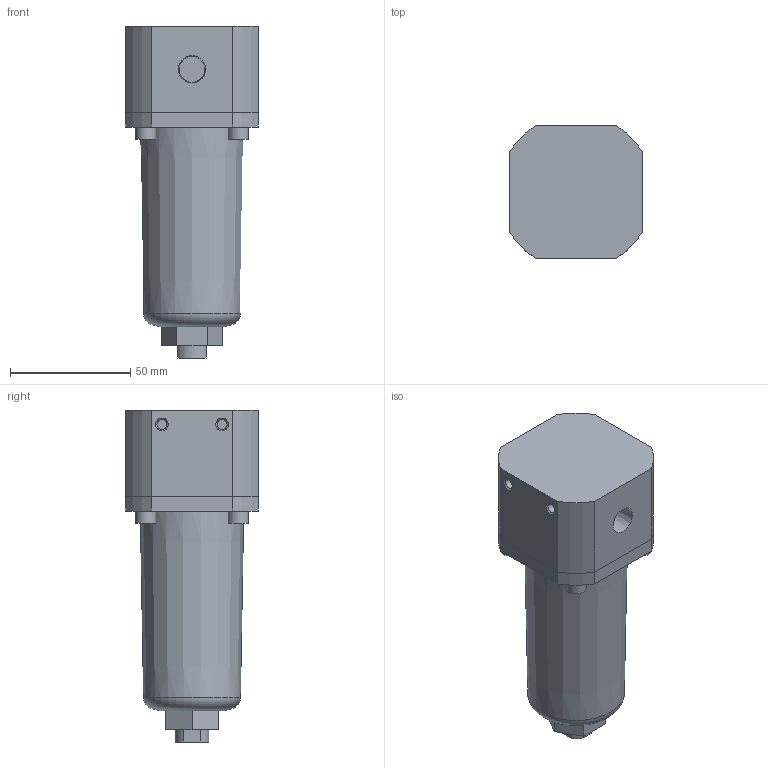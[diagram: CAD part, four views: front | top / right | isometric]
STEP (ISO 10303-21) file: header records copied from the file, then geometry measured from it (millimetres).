
FILE_DESCRIPTION(/* description */ ('FILTRO G1/4" #µm - # S.A.'),/* implementation_level */ '2;1');
FILE_NAME(/* name */ 'I:\Area Tecnica\Disegni\VARIE-3D\Componenti\FRL-INOX\SS172\SS172CF# #S.step',/* time_stamp */ '2016-04-06T09:51:08+02:00',/* author */ ('M.Valota'),/* organization */ ('Pneumax S.p.A.'),/* preprocessor_version */ 'ST-DEVELOPER v15.2',/* originating_system */ 'Autodesk Inventor 2014',/* authorisation */ '');
FILE_SCHEMA (('AUTOMOTIVE_DESIGN { 1 0 10303 214 3 1 1 }'));
Length unit declared in the file: millimetre
Products named in the file (1): SS172CF# #S
Bounding box: 55 x 55 x 138 mm (x, y, z)
Volume: 232827.5 mm3; surface area: 27044.7 mm2
Topology: 1 solids, 1 shells, 94 faces, 209 edges, 138 vertices
Faces by surface type: plane 63, cylinder 20, cone 10, torus 1
Full cylindrical faces by diameter (mm): 4.134 x4, 8.5 x4, 10.719 x2
Entity records: 2579 total; most frequent: DIRECTION 430, CARTESIAN_POINT 415, ORIENTED_EDGE 370, EDGE_CURVE 185, AXIS2_PLACEMENT_3D 150, EDGE_LOOP 136, VERTEX_POINT 135, LINE 130
